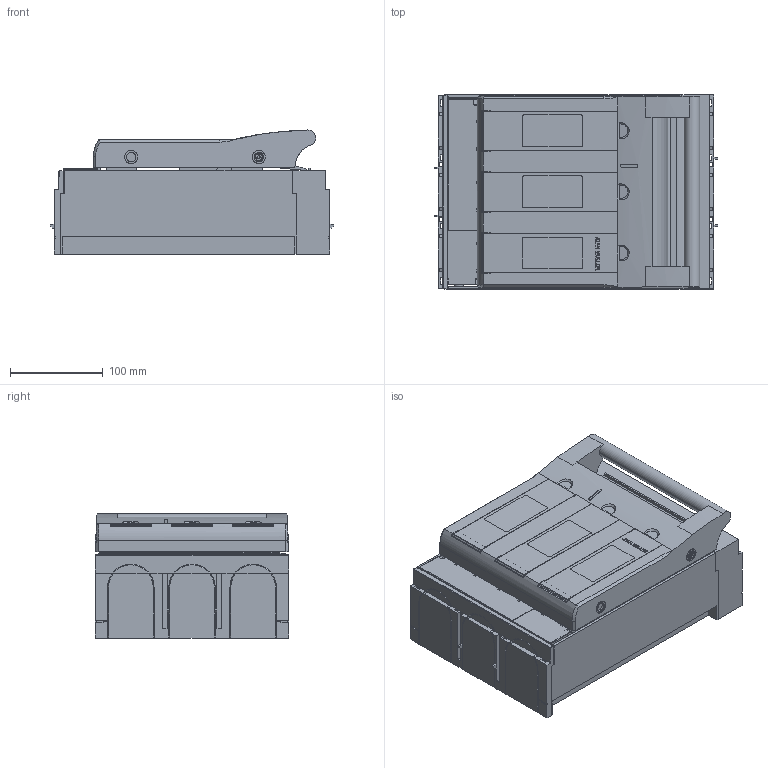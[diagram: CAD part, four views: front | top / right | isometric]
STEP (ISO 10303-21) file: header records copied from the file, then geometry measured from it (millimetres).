
FILE_DESCRIPTION(('CATIA V5 STEP'),'2;1');
FILE_NAME('S:\STEP_Dateien\STEP_Dateien_Trenner\KETO-Step-Dateien_3-polig\T200113000_L_NH-Sicherungslasttrennschalter_KETO-2-3_F.stp','2015-09-16T08:55:34+00:00',('none'),('Jean Müller GmbH'),'CATIA Version 5 Release 19 SP 9 (IN-10)','CATIA V5 STEP AP214','none');
FILE_SCHEMA(('AUTOMOTIVE_DESIGN { 1 0 10303 214 1 1 1 1 }'));
Products named in the file (11): T200113000_L_NH-Sich-Lasttrennschalter KETO-2-3/F; 34235_L_Trennergehaeuse Gr2_3-polig; 34204_L_Frontplatte Gr2_3-polig; 34208_L01_Scheibe Gr1; 34236_L01_Schutzabdeckung oben Gr2_3-polig; 34237_L_Schutzabdeckung unten Gr2_3-polig; 158641_L_Anschlusslasche Trenner; 34208_L_Scheibe Gr.1; 66113_Sechskantmutter DIN934_M10; 65746_Sechskantschraube M10x25; 66903_Spannscheibe DIN6796 -10
Assembly tree (31 placements, depth 2):
  T200113000_L_NH-Sich-Lasttrennschalter KETO-2-3/F
    34235_L_Trennergehaeuse Gr2_3-polig
    34204_L_Frontplatte Gr2_3-polig
    34208_L01_Scheibe Gr1
    34236_L01_Schutzabdeckung oben Gr2_3-polig
    34237_L_Schutzabdeckung unten Gr2_3-polig
    158641_L_Anschlusslasche Trenner  x6
    34208_L_Scheibe Gr.1  x2
    66113_Sechskantmutter DIN934_M10  x6
    65746_Sechskantschraube M10x25  x6
    66903_Spannscheibe DIN6796 -10  x6
Bounding box: 306 x 209.5 x 134.05 mm (x, y, z)
Volume: 2268240.7 mm3; surface area: 840686.3 mm2
Topology: 31 solids, 32 shells, 2029 faces, 5976 edges, 3941 vertices
Faces by surface type: plane 1412, cylinder 381, cone 177, bspline 51, sphere 8
Entity records: 56958 total; most frequent: CARTESIAN_POINT 13277, ORIENTED_EDGE 9598, DIRECTION 6369, EDGE_CURVE 4799, VECTOR 3858, LINE 3858, VERTEX_POINT 3173, EDGE_LOOP 1696
